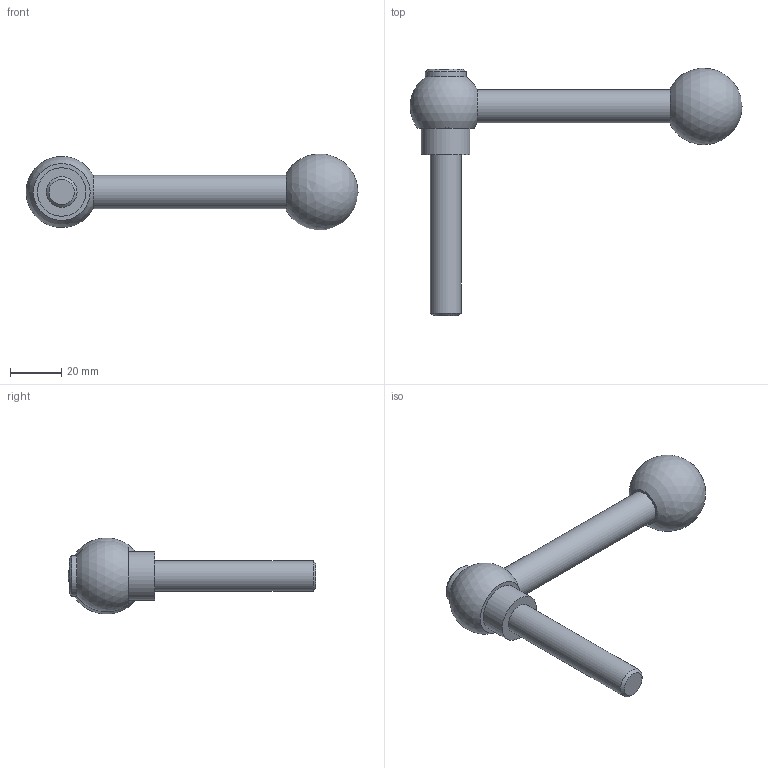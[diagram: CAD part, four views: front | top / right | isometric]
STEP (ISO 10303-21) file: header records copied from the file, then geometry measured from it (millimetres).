
FILE_DESCRIPTION( ( 'STEP AP203' ), '1' );
FILE_NAME( 'C:/Temp/Ganter_Step_05_03_2020/data/2_1/gn_6337_3/gn_6337_3_ms/gn_6337_3_ms_m/Adjustable clamping lever with bolt GN 6337.3-28-M12-63-M.stp', '2020-03-05T11:41:16', ( 'License CC BY-ND 4.0' ), ( 'CADENAS' ), ' ', 'PARTsolutions', ' ' );
FILE_SCHEMA( ( 'CONFIG_CONTROL_DESIGN' ) );
Length unit declared in the file: millimetre
Products named in the file (1): _Adjustable clamping lever with bolt GN 6337.3-28-M12-63-M
Bounding box: 129.99 x 96.93 x 29.7 mm (x, y, z)
Volume: 44621.1 mm3; surface area: 11073.7 mm2
Topology: 1 solids, 1 shells, 13 faces, 26 edges, 17 vertices
Faces by surface type: plane 5, cylinder 4, cone 2, sphere 2
Full cylindrical faces by diameter (mm): 12 x1, 13 x1, 15.969 x1, 19 x1
Entity records: 302 total; most frequent: DIRECTION 52, CARTESIAN_POINT 39, AXIS2_PLACEMENT_3D 26, EDGE_LOOP 24, ORIENTED_EDGE 24, FACE_OUTER_BOUND 18, ADVANCED_FACE 13, VERTEX_POINT 13
